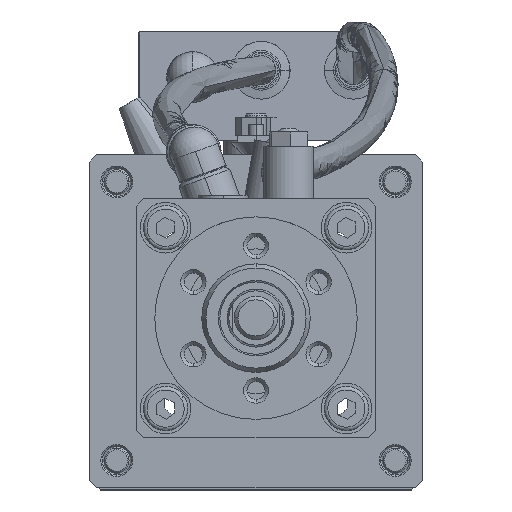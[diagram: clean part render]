
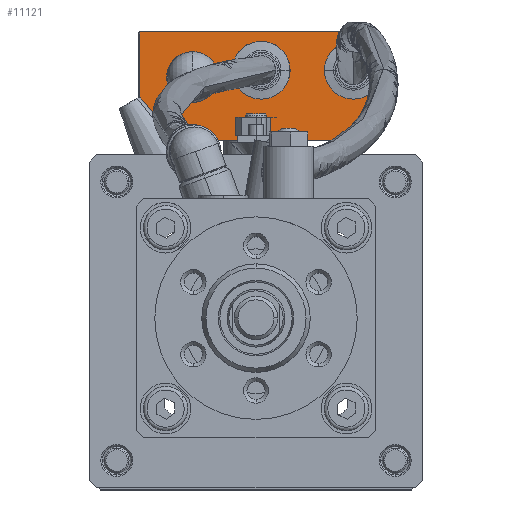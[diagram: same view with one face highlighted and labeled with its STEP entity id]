
A CAD part, top view. The second image highlights one B-rep face of the part: STEP entity #11121.
In plain terms, the highlighted planar face has unit normal (0.006, 0, 1).
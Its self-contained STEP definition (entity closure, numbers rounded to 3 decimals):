
#74 = EDGE_CURVE ( 'NONE', #9119, #2630, #1628, .T. ) ;
#137 = CIRCLE ( 'NONE', #16134, 6.75 ) ;
#179 = DIRECTION ( 'NONE',  ( -1., 0., 0.006 ) ) ;
#448 = LINE ( 'NONE', #13363, #3156 ) ;
#928 = CARTESIAN_POINT ( 'NONE',  ( -17.707, 74.75, -114.143 ) ) ;
#1072 = CARTESIAN_POINT ( 'NONE',  ( 6.293, 70., -114.286 ) ) ;
#1094 = CARTESIAN_POINT ( 'NONE',  ( 26.792, 70., -114.409 ) ) ;
#1147 = EDGE_LOOP ( 'NONE', ( #2280, #12510, #1463, #14013 ) ) ;
#1156 = EDGE_LOOP ( 'NONE', ( #8006, #4581 ) ) ;
#1266 = EDGE_CURVE ( 'NONE', #14535, #11826, #11203, .T. ) ;
#1453 = EDGE_CURVE ( 'NONE', #2630, #9119, #4301, .T. ) ;
#1463 = ORIENTED_EDGE ( 'NONE', *, *, #4432, .T. ) ;
#1467 = DIRECTION ( 'NONE',  ( 0., 1., 0. ) ) ;
#1628 = CIRCLE ( 'NONE', #11463, 5. ) ;
#2280 = ORIENTED_EDGE ( 'NONE', *, *, #15854, .T. ) ;
#2401 = CARTESIAN_POINT ( 'NONE',  ( 26.792, 70., -114.409 ) ) ;
#2408 = EDGE_LOOP ( 'NONE', ( #8323, #4687 ) ) ;
#2476 = ORIENTED_EDGE ( 'NONE', *, *, #4094, .F. ) ;
#2506 = CIRCLE ( 'NONE', #9943, 5. ) ;
#2630 = VERTEX_POINT ( 'NONE', #4549 ) ;
#2728 = CARTESIAN_POINT ( 'NONE',  ( 31.792, 70., -114.439 ) ) ;
#2806 = DIRECTION ( 'NONE',  ( -1., 0., 0.006 ) ) ;
#3156 = VECTOR ( 'NONE', #6944, 1000. ) ;
#3437 = DIRECTION ( 'NONE',  ( -1., 0., 0.006 ) ) ;
#3689 = FACE_BOUND ( 'NONE', #10581, .T. ) ;
#4024 = AXIS2_PLACEMENT_3D ( 'NONE', #2401, #9037, #5208 ) ;
#4094 = EDGE_CURVE ( 'NONE', #4226, #15243, #13566, .T. ) ;
#4226 = VERTEX_POINT ( 'NONE', #12370 ) ;
#4301 = CIRCLE ( 'NONE', #4574, 5. ) ;
#4432 = EDGE_CURVE ( 'NONE', #14151, #10333, #448, .T. ) ;
#4549 = CARTESIAN_POINT ( 'NONE',  ( -3.707, 70., -114.227 ) ) ;
#4574 = AXIS2_PLACEMENT_3D ( 'NONE', #5715, #14210, #2806 ) ;
#4581 = ORIENTED_EDGE ( 'NONE', *, *, #1453, .F. ) ;
#4687 = ORIENTED_EDGE ( 'NONE', *, *, #1266, .F. ) ;
#4781 = CARTESIAN_POINT ( 'NONE',  ( 32.899, 80.5, -114.445 ) ) ;
#5208 = DIRECTION ( 'NONE',  ( -1., 0., 0.006 ) ) ;
#5250 = DIRECTION ( 'NONE',  ( 1., 0., -0.006 ) ) ;
#5261 = CARTESIAN_POINT ( 'NONE',  ( 1.293, 70., -114.257 ) ) ;
#5653 = VERTEX_POINT ( 'NONE', #7124 ) ;
#5715 = CARTESIAN_POINT ( 'NONE',  ( 1.293, 70., -114.257 ) ) ;
#5786 = EDGE_CURVE ( 'NONE', #13202, #14151, #15033, .T. ) ;
#6427 = AXIS2_PLACEMENT_3D ( 'NONE', #12841, #10087, #179 ) ;
#6944 = DIRECTION ( 'NONE',  ( 0., -1., 0. ) ) ;
#7086 = VECTOR ( 'NONE', #1467, 1000. ) ;
#7124 = CARTESIAN_POINT ( 'NONE',  ( 32.899, 50.5, -114.445 ) ) ;
#7754 = CARTESIAN_POINT ( 'NONE',  ( 32.899, 50.5, -114.445 ) ) ;
#7755 = FACE_OUTER_BOUND ( 'NONE', #1147, .T. ) ;
#7870 = LINE ( 'NONE', #9032, #7086 ) ;
#8006 = ORIENTED_EDGE ( 'NONE', *, *, #74, .F. ) ;
#8323 = ORIENTED_EDGE ( 'NONE', *, *, #13984, .F. ) ;
#8505 = DIRECTION ( 'NONE',  ( 0.006, 0., 1. ) ) ;
#8760 = FACE_BOUND ( 'NONE', #1156, .T. ) ;
#8921 = FACE_BOUND ( 'NONE', #2408, .T. ) ;
#9032 = CARTESIAN_POINT ( 'NONE',  ( 32.899, 50.5, -114.445 ) ) ;
#9037 = DIRECTION ( 'NONE',  ( 0.006, 0., 1. ) ) ;
#9047 = CARTESIAN_POINT ( 'NONE',  ( 21.792, 70., -114.379 ) ) ;
#9119 = VERTEX_POINT ( 'NONE', #1072 ) ;
#9343 = DIRECTION ( 'NONE',  ( 0.006, 0., 1. ) ) ;
#9439 = CARTESIAN_POINT ( 'NONE',  ( -17.707, 68., -114.143 ) ) ;
#9943 = AXIS2_PLACEMENT_3D ( 'NONE', #1094, #8505, #3437 ) ;
#10087 = DIRECTION ( 'NONE',  ( 0.006, 0., 1. ) ) ;
#10309 = CARTESIAN_POINT ( 'NONE',  ( -32.099, 80.5, -114.057 ) ) ;
#10333 = VERTEX_POINT ( 'NONE', #14043 ) ;
#10581 = EDGE_LOOP ( 'NONE', ( #2476, #14725 ) ) ;
#11121 = ADVANCED_FACE ( 'NONE', ( #8921, #8760, #7755, #3689 ), #14005, .T. ) ;
#11203 = CIRCLE ( 'NONE', #4024, 5. ) ;
#11216 = DIRECTION ( 'NONE',  ( 0.006, 0., 1. ) ) ;
#11463 = AXIS2_PLACEMENT_3D ( 'NONE', #5261, #9343, #14176 ) ;
#11826 = VERTEX_POINT ( 'NONE', #2728 ) ;
#12120 = DIRECTION ( 'NONE',  ( 0., 1., 0. ) ) ;
#12370 = CARTESIAN_POINT ( 'NONE',  ( -17.707, 61.25, -114.143 ) ) ;
#12510 = ORIENTED_EDGE ( 'NONE', *, *, #5786, .T. ) ;
#12586 = EDGE_CURVE ( 'NONE', #10333, #5653, #15587, .T. ) ;
#12590 = VECTOR ( 'NONE', #5250, 1000. ) ;
#12841 = CARTESIAN_POINT ( 'NONE',  ( -13.539, 45.376, -114.168 ) ) ;
#13202 = VERTEX_POINT ( 'NONE', #15281 ) ;
#13363 = CARTESIAN_POINT ( 'NONE',  ( -32.099, 50.5, -114.057 ) ) ;
#13566 = CIRCLE ( 'NONE', #15376, 6.75 ) ;
#13705 = DIRECTION ( 'NONE',  ( -1., 0., 0.006 ) ) ;
#13984 = EDGE_CURVE ( 'NONE', #11826, #14535, #2506, .T. ) ;
#14005 = PLANE ( 'NONE',  #6427 ) ;
#14013 = ORIENTED_EDGE ( 'NONE', *, *, #12586, .T. ) ;
#14043 = CARTESIAN_POINT ( 'NONE',  ( -32.099, 50.5, -114.057 ) ) ;
#14151 = VERTEX_POINT ( 'NONE', #10309 ) ;
#14176 = DIRECTION ( 'NONE',  ( -1., 0., 0.006 ) ) ;
#14210 = DIRECTION ( 'NONE',  ( 0.006, 0., 1. ) ) ;
#14526 = DIRECTION ( 'NONE',  ( 0.006, 0., 1. ) ) ;
#14535 = VERTEX_POINT ( 'NONE', #9047 ) ;
#14725 = ORIENTED_EDGE ( 'NONE', *, *, #15769, .F. ) ;
#15033 = LINE ( 'NONE', #4781, #15119 ) ;
#15119 = VECTOR ( 'NONE', #13705, 1000. ) ;
#15132 = CARTESIAN_POINT ( 'NONE',  ( -17.707, 68., -114.143 ) ) ;
#15243 = VERTEX_POINT ( 'NONE', #928 ) ;
#15281 = CARTESIAN_POINT ( 'NONE',  ( 32.899, 80.5, -114.445 ) ) ;
#15376 = AXIS2_PLACEMENT_3D ( 'NONE', #9439, #14526, #12120 ) ;
#15587 = LINE ( 'NONE', #7754, #12590 ) ;
#15769 = EDGE_CURVE ( 'NONE', #15243, #4226, #137, .T. ) ;
#15854 = EDGE_CURVE ( 'NONE', #5653, #13202, #7870, .T. ) ;
#16134 = AXIS2_PLACEMENT_3D ( 'NONE', #15132, #11216, #16316 ) ;
#16316 = DIRECTION ( 'NONE',  ( 0., 1., 0. ) ) ;
